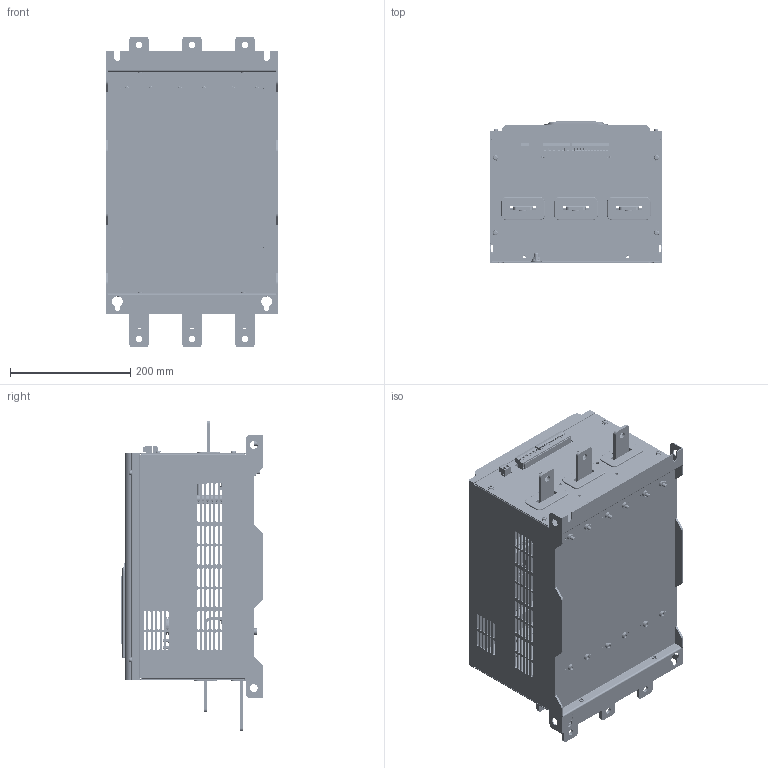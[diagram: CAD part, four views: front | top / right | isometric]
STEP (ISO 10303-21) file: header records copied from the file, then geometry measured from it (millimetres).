
FILE_DESCRIPTION((''),'2;1');
FILE_NAME('EX9QR5-370-D_ASM','2023-07-17T10:30:37',('ruanmm'),(''),'CREO PARAMETRIC BY PTC INC, 2020044','CREO PARAMETRIC BY PTC INC, 2020044','');
FILE_SCHEMA(('CONFIG_CONTROL_DESIGN','SHAPE_APPEARANCE_LAYERS_GROUPS'));
Products named in the file (119): NJR3-F4-WK-1_6_1; S-M5-2_1_1; S-M6-2_1_1; E-M8_1_1_1; E-M8_1_2_1; E-M8_1_ASM_1_ASM; NJR3-F4-WK-1-ASM_ASM_6_ASM_1_ASM; NJR3-F4-CEB-Z-1_4_1; S-M4-2_1_1; NJR3-F4-CEB-Z-1-ASM_ASM_2_ASM_1_ASM; NJR3-F4-ZHIJIA-1-1_1_1; NJR3-F4-ZHIJIA-1-1__ASM_1_ASM_1_ASM; EX9QR5-370-D-BXJ_3_1; NJR3-F4-CEB-Z-1__ASM_5_ASM_1_ASM; NJR3-F4-CEB-Y-1_3_1; NJR3-F4-CEB-Y-1-ASM_ASM_3_ASM_1_ASM; NJR3-F4-CEB-Y-1__ASM_4_ASM_1_ASM; NJR3-F4-DIZUO_ASM_15_ASM_1_ASM; TOP-PLATE-NEW_7_1; NED-PL-A_2_1; PRT0003_2_1; TOP-PLATE-NEW-ASM_ASM_7_ASM_1_ASM; PVC-POST_1_1; GB-T9074-4-M4-10_1_1; PVC-POST-L-N_5_1; NP_4_1; EX9QR5-D-BOX-PLAY_13_3_1; SHANGGAI-XIN__2_1_1_1; M3TONG__1_1_1_1; PCB-BL_1_1_1; XLB-XIN-3_ASM_1_ASM_1_ASM_1_ASM; MANIFOLD_SOLID_BREP_40621_1_1_1; MANIFOLD_SOLID_BREP_40621_1_2_1; MANIFOLD_SOLID_BREP_40621_1_3_1; MANIFOLD_SOLID_BREP_40621_1_4_1; MANIFOLD_SOLID_BREP_40621_1_5_1; MANIFOLD_SOLID_BREP_40621_1_6_1; MANIFOLD_SOLID_BREP_40621_1_7_1; MANIFOLD_SOLID_BREP_40621_1_8_1; MANIFOLD_SOLID_BREP_40621_1_9_1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
Assembly tree (196 placements, depth 11):
  EX9QR5-370-D_ASM
    EX9QR5-180-4-D_ASM_ASM_1_ASM
      EX9QR5-180-4-D_ASM_54_ASM_1_ASM
        NJR2-ZX-160KW-WK_ASM_24_ASM_1_ASM
          NJR3-F4-DIZUO_ASM_15_ASM_1_ASM
            NJR3-F4-WK-1-ASM_ASM_6_ASM_1_ASM
              NJR3-F4-WK-1_6_1
              S-M5-2_1_1  x4
              S-M6-2_1_1  x12
              E-M8_1_ASM_1_ASM
                E-M8_1_1_1
                E-M8_1_2_1
            NJR3-F4-CEB-Z-1__ASM_5_ASM_1_ASM
              NJR3-F4-CEB-Z-1-ASM_ASM_2_ASM_1_ASM
                NJR3-F4-CEB-Z-1_4_1
                S-M4-2_1_1  x2
                S-M5-2_1_1  x4
              NJR3-F4-ZHIJIA-1-1__ASM_1_ASM_1_ASM  x3
                NJR3-F4-ZHIJIA-1-1_1_1
                S-M4-2_1_1
              EX9QR5-370-D-BXJ_3_1
            NJR3-F4-CEB-Y-1__ASM_4_ASM_1_ASM
              NJR3-F4-CEB-Y-1-ASM_ASM_3_ASM_1_ASM
                NJR3-F4-CEB-Y-1_3_1
                S-M4-2_1_1  x2
                S-M5-2_1_1  x4
              NJR3-F4-ZHIJIA-1-1__ASM_1_ASM_1_ASM  x3
                NJR3-F4-ZHIJIA-1-1_1_1
                S-M4-2_1_1
          NJR3-F2-GAI-1__ASM_13_ASM_1_ASM
            TOP-PLATE-NEW-ASM_ASM_7_ASM_1_ASM
              TOP-PLATE-NEW_7_1
              NED-PL-A_2_1
              PRT0003_2_1
            PVC-POST_1_1
            GB-T9074-4-M4-10_1_1  x4
            PVC-POST-L-N_5_1
            NP_4_1
            EX9QR5-D-BOX-ASSEMBLY_ASM_ASM_3_ASM
              EX9QR5-D-BOX-ASSEMBLY_ASM_3_ASM_ASM
                EX9QR5-D-BOX-PLAY_13_3_1
                ZHONGZHUTU2__ASM_1_ASM_1_ASM_1__ASM
                  SHANGGAI-XIN__2_1_1_1
                  M3TONG__1_1_1_1  x4
                  XLB-XIN-3_ASM_1_ASM_1_ASM_1_ASM
                  XSGMP-75ZX-M__2_ASM_1_ASM_1_ASM_ASM
                  YKL-75ZX__2_1_1_1
          EX9QR5-180-CEB-Q-ASM_ASM_6_ASM__ASM
            NJR3-F4-CEB-Q-1_10_1
          EX9QR5-180-CEB--H-ASM_ASM_4_ASM_ASM
            EX9QR5-180-CEB-Q-1_5_1
          M5-12_1_1  x4
          M8_FLLM_2_1
        SRQJJ-1119_ASM_17_ASM_1_ASM  x4
          JXTP_8_1
          CXTP_6_1
          AZB-1219_3_1
          M8X20LS-1207_1_ASM_1_ASM
            M8X20LS-1207_1_1_1
            M8X20LS-1207_1_2_1
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Bounding box: 286 x 237.1 x 516 mm (x, y, z)
Volume: 1733813 mm3; surface area: 1781767.5 mm2
Topology: 257 solids, 266 shells, 20495 faces, 54691 edges, 36058 vertices
Faces by surface type: plane 17697, cylinder 2413, cone 138, bspline 128, torus 80, sphere 32, extrusion 7
Entity records: 305916 total; most frequent: CARTESIAN_POINT 50844, ORIENTED_EDGE 42638, DIRECTION 40115, EDGE_CURVE 21321, VECTOR 18751, LINE 18744, VERTEX_POINT 14048, AXIS2_PLACEMENT_3D 10682
